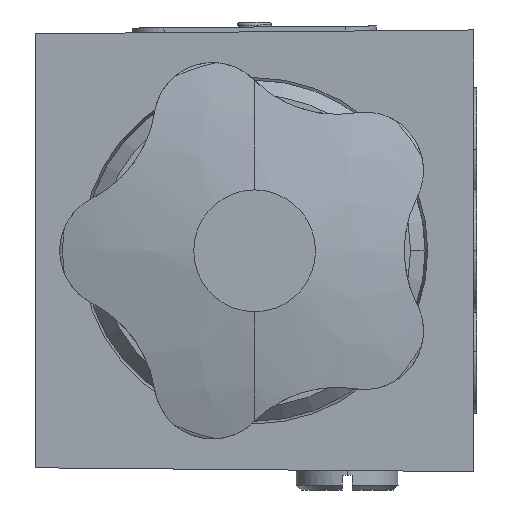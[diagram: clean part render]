
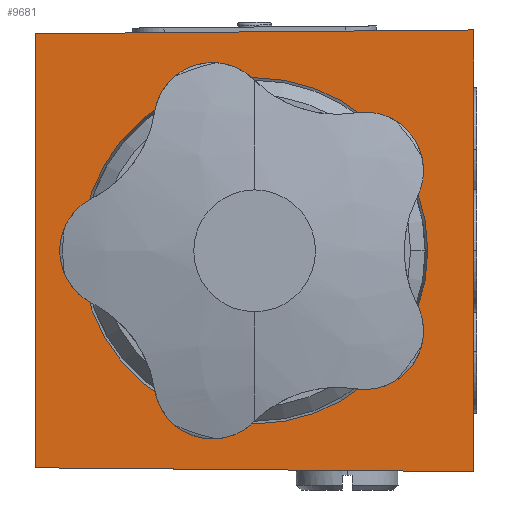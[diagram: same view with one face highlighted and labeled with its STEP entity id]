
A CAD part, left-side view. The second image highlights one B-rep face of the part: STEP entity #9681.
In plain terms, the highlighted planar face has unit normal (-1, 0, 0).
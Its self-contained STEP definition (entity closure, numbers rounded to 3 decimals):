
#87=DIRECTION('',(0.,-1.,0.009));
#88=VECTOR('',#87,45.002);
#89=CARTESIAN_POINT('',(-45.,22.5,22.272));
#90=LINE('',#89,#88);
#147=CARTESIAN_POINT('',(-45.,0.,0.));
#148=DIRECTION('',(-1.,0.,0.));
#149=DIRECTION('',(0.,1.,0.));
#150=AXIS2_PLACEMENT_3D('',#147,#148,#149);
#155=CARTESIAN_POINT('',(-45.,0.,0.));
#156=DIRECTION('',(-1.,0.,0.));
#157=DIRECTION('',(0.,-1.,0.));
#158=AXIS2_PLACEMENT_3D('',#155,#156,#157);
#163=DIRECTION('',(0.,0.,1.));
#164=VECTOR('',#163,45.329);
#165=CARTESIAN_POINT('',(-45.,-22.5,-22.665));
#166=LINE('',#165,#164);
#321=DIRECTION('',(0.,0.,-1.));
#322=VECTOR('',#321,44.544);
#323=CARTESIAN_POINT('',(-45.,22.5,22.272));
#324=LINE('',#323,#322);
#463=DIRECTION('',(0.,-1.,-0.009));
#464=VECTOR('',#463,45.002);
#465=CARTESIAN_POINT('',(-45.,22.5,-22.272));
#466=LINE('',#465,#464);
#8912=CARTESIAN_POINT('',(-45.,22.5,22.272));
#8913=CARTESIAN_POINT('',(-45.,-22.5,22.665));
#8914=VERTEX_POINT('',#8912);
#8915=VERTEX_POINT('',#8913);
#8916=CARTESIAN_POINT('',(-45.,22.5,-22.272));
#8917=CARTESIAN_POINT('',(-45.,-22.5,-22.665));
#8918=VERTEX_POINT('',#8916);
#8919=VERTEX_POINT('',#8917);
#9124=CARTESIAN_POINT('',(-45.,17.768,0.));
#9125=CARTESIAN_POINT('',(-45.,-17.768,0.));
#9126=VERTEX_POINT('',#9124);
#9127=VERTEX_POINT('',#9125);
#9661=CARTESIAN_POINT('',(-45.,0.,0.));
#9662=DIRECTION('',(1.,0.,0.));
#9663=DIRECTION('',(0.,0.,-1.));
#9664=AXIS2_PLACEMENT_3D('',#9661,#9662,#9663);
#9665=PLANE('',#9664);
#9666=ORIENTED_EDGE('',*,*,#9631,.T.);
#9668=ORIENTED_EDGE('',*,*,#9667,.F.);
#9670=ORIENTED_EDGE('',*,*,#9669,.F.);
#9672=ORIENTED_EDGE('',*,*,#9671,.F.);
#9673=EDGE_LOOP('',(#9666,#9668,#9670,#9672));
#9674=FACE_OUTER_BOUND('',#9673,.F.);
#9676=ORIENTED_EDGE('',*,*,#9675,.T.);
#9678=ORIENTED_EDGE('',*,*,#9677,.T.);
#9679=EDGE_LOOP('',(#9676,#9678));
#9680=FACE_BOUND('',#9679,.F.);
#151=CIRCLE('',#150,17.768);
#159=CIRCLE('',#158,17.768);
#9631=EDGE_CURVE('',#8914,#8915,#90,.T.);
#9667=EDGE_CURVE('',#8919,#8915,#166,.T.);
#9669=EDGE_CURVE('',#8918,#8919,#466,.T.);
#9671=EDGE_CURVE('',#8914,#8918,#324,.T.);
#9675=EDGE_CURVE('',#9126,#9127,#151,.T.);
#9677=EDGE_CURVE('',#9127,#9126,#159,.T.);
#9681=ADVANCED_FACE('',(#9674,#9680),#9665,.F.);
